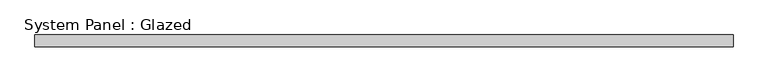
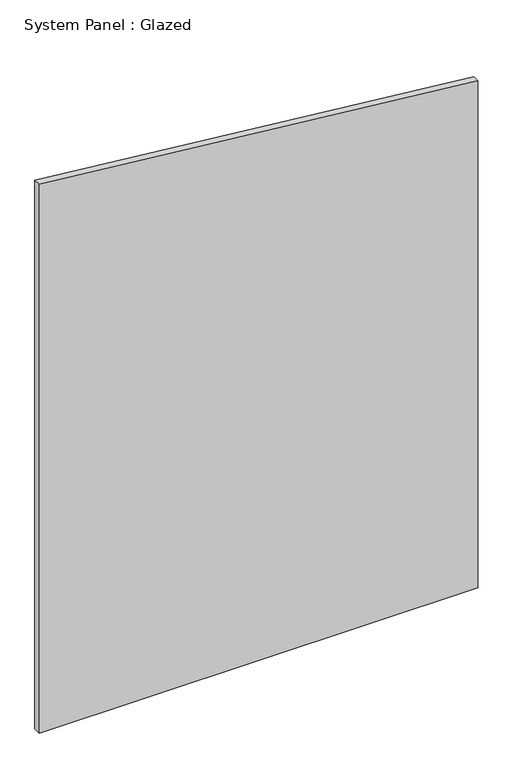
"""IFC4 building model written with IfcOpenShell, lengths in millimetres: plate geometry, System Panel : Glazed."""

from ifc_helpers import new_model, si_unit, frame, origin, place, context, project, spatial, polyline, outline, extrude, source, transform, mapped, element, save


def system_panel_glazed_619dae80(model_context):
    return source(origin(), model_context, "Body", "SweptSolid", [
        extrude(outline(polyline([(0.0, -735.8695652), (0.0, 735.8695652), (1798.3348809, 735.8695652), (1946.3178597, -735.8695652), (0.0, -735.8695652)])), frame((0.0, 24.5, 0.0), z_axis=(0.0, 1.0, 0.0), x_axis=(0.0, 0.0, 1.0)), (0.0, 0.0, 1.0), 25.0),
    ])


if __name__ == "__main__":
    model = new_model("IFC4")
    model_context = context("Model", 3, world=origin())
    ifc_project = project(units=[si_unit("LENGTHUNIT", "METRE", prefix="MILLI")], contexts=[model_context])
    site = spatial("IfcSite", under=ifc_project)
    building = spatial("IfcBuilding", under=site)
    placement = place(None, origin())
    system_panel_glazed_shape = system_panel_glazed_619dae80(model_context)
    element("IfcPlate", 1, ObjectType="System Panel : Glazed", at=placement, inside=building, context=model_context, shape_type="MappedRepresentation", body=[
        mapped(system_panel_glazed_shape, transform((0.0, 0.0, 0.0), x_axis=(1.0, 0.0, 0.0), y_axis=(0.0, 1.0, 0.0), z_axis=(0.0, 0.0, 1.0))),
    ])
    save(model, "model.ifc")
